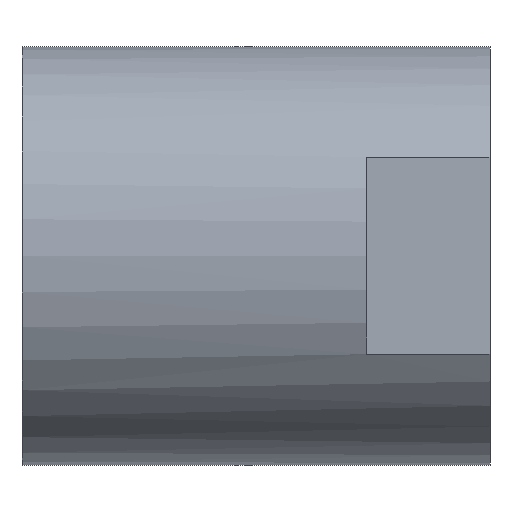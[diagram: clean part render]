
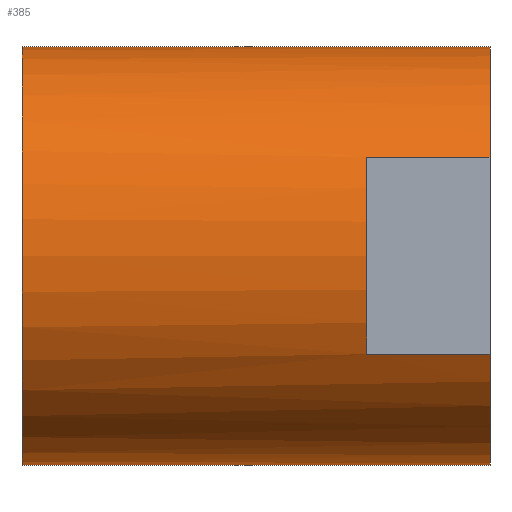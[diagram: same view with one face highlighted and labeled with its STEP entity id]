
A CAD part, top view. The second image highlights one B-rep face of the part: STEP entity #385.
In plain terms, the highlighted cylindrical face has radius 17 mm (diameter 34 mm), a partial arc.
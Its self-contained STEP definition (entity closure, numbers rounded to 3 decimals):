
#25=CARTESIAN_POINT('',(-19.,0.,0.));
#26=DIRECTION('',(1.,0.,0.));
#27=DIRECTION('',(0.,1.,0.));
#28=AXIS2_PLACEMENT_3D('',#25,#26,#27);
#115=CARTESIAN_POINT('',(9.,0.,0.));
#116=DIRECTION('',(-1.,0.,0.));
#117=DIRECTION('',(0.,-0.471,0.882));
#118=AXIS2_PLACEMENT_3D('',#115,#116,#117);
#120=DIRECTION('',(-1.,0.,0.));
#121=VECTOR('',#120,10.);
#122=CARTESIAN_POINT('',(19.,-8.,15.));
#123=LINE('173',#122,#121);
#124=CARTESIAN_POINT('',(19.,0.,0.));
#125=DIRECTION('',(1.,0.,0.));
#126=DIRECTION('',(0.,-0.471,0.882));
#127=AXIS2_PLACEMENT_3D('',#124,#125,#126);
#129=DIRECTION('',(-1.,0.,0.));
#130=VECTOR('',#129,38.);
#131=CARTESIAN_POINT('',(19.,-17.,0.));
#132=LINE('98',#131,#130);
#133=DIRECTION('',(-1.,0.,0.));
#134=VECTOR('',#133,38.);
#135=CARTESIAN_POINT('',(19.,17.,0.));
#136=LINE('91',#135,#134);
#137=CARTESIAN_POINT('',(19.,0.,0.));
#138=DIRECTION('',(1.,0.,0.));
#139=DIRECTION('',(0.,1.,0.));
#140=AXIS2_PLACEMENT_3D('',#137,#138,#139);
#142=DIRECTION('',(-1.,0.,0.));
#143=VECTOR('',#142,10.);
#144=CARTESIAN_POINT('',(19.,8.,15.));
#145=LINE('174',#144,#143);
#154=CARTESIAN_POINT('',(19.,17.,0.));
#155=CARTESIAN_POINT('',(-19.,17.,0.));
#156=VERTEX_POINT('',#154);
#157=VERTEX_POINT('',#155);
#166=CARTESIAN_POINT('',(19.,-17.,0.));
#167=CARTESIAN_POINT('',(-19.,-17.,0.));
#168=VERTEX_POINT('',#166);
#169=VERTEX_POINT('',#167);
#174=CARTESIAN_POINT('',(19.,-8.,15.));
#175=CARTESIAN_POINT('',(19.,8.,15.));
#176=VERTEX_POINT('',#174);
#177=VERTEX_POINT('',#175);
#182=CARTESIAN_POINT('',(9.,-8.,15.));
#183=CARTESIAN_POINT('',(9.,8.,15.));
#184=VERTEX_POINT('',#182);
#185=VERTEX_POINT('',#183);
#368=CARTESIAN_POINT('',(20.9,0.,0.));
#369=DIRECTION('',(-1.,0.,0.));
#370=DIRECTION('',(0.,1.,0.));
#371=AXIS2_PLACEMENT_3D('',#368,#369,#370);
#372=CYLINDRICAL_SURFACE('134',#371,17.);
#373=ORIENTED_EDGE('172',*,*,#271,.F.);
#375=ORIENTED_EDGE('173',*,*,#374,.F.);
#376=ORIENTED_EDGE('178',*,*,#298,.T.);
#377=ORIENTED_EDGE('98',*,*,#246,.T.);
#378=ORIENTED_EDGE('137',*,*,#223,.F.);
#379=ORIENTED_EDGE('91',*,*,#243,.F.);
#380=ORIENTED_EDGE('177',*,*,#302,.T.);
#382=ORIENTED_EDGE('174',*,*,#381,.T.);
#383=EDGE_LOOP('134',(#373,#375,#376,#377,#378,#379,#380,#382));
#384=FACE_OUTER_BOUND('134',#383,.F.);
#385=ADVANCED_FACE('134',(#384),#372,.T.);
#29=CIRCLE('137',#28,17.);
#119=CIRCLE('172',#118,17.);
#128=CIRCLE('178',#127,17.);
#141=CIRCLE('177',#140,17.);
#223=EDGE_CURVE('137',#157,#169,#29,.T.);
#243=EDGE_CURVE('91',#156,#157,#136,.T.);
#246=EDGE_CURVE('98',#168,#169,#132,.T.);
#271=EDGE_CURVE('172',#184,#185,#119,.T.);
#298=EDGE_CURVE('178',#176,#168,#128,.T.);
#302=EDGE_CURVE('177',#156,#177,#141,.T.);
#374=EDGE_CURVE('173',#176,#184,#123,.T.);
#381=EDGE_CURVE('174',#177,#185,#145,.T.);
